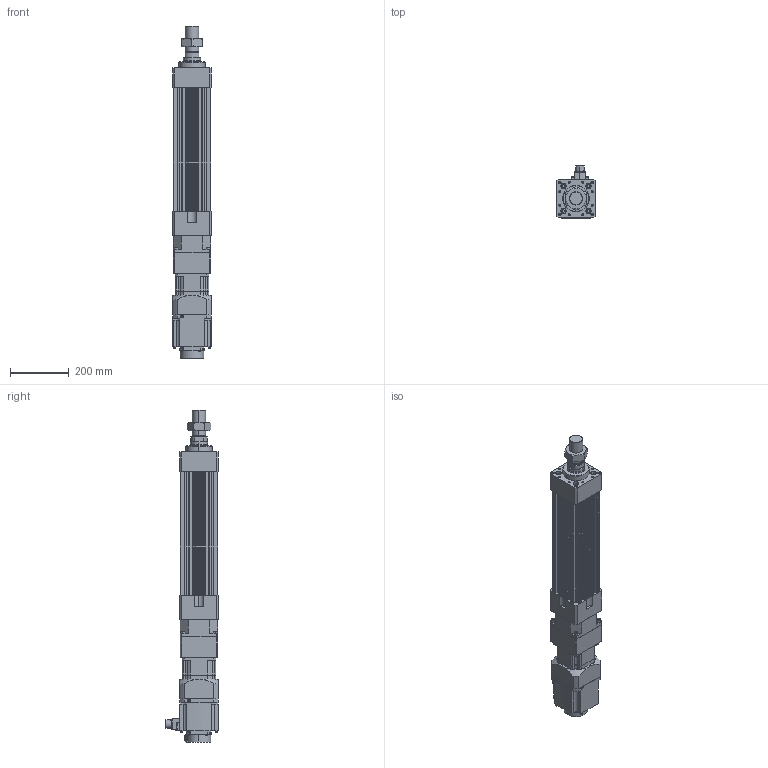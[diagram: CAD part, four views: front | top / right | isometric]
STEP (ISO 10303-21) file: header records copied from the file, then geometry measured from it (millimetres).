
FILE_DESCRIPTION (( 'STEP AP203' ), '1' );
FILE_NAME ('HES130NS(FS)(HS)-S200-W015G00-M.STEP', '2023-01-30T07:55:04', ( 'tms' ), ( '' ), 'SwSTEP 2.0', 'SolidWorks 2013', '' );
FILE_SCHEMA (( 'CONFIG_CONTROL_DESIGN' ));
Length unit declared in the file: millimetre
Products named in the file (8): HES130 ROD M ST200; AB115-003[HG-SR152]; M45X1.5P; HES130NS(FS)(HS)-S200-W015G00-M; AB1151; HG-SR152; HES130-S200-G120; P0401400706
Assembly tree (7 placements, depth 3):
  HES130NS(FS)(HS)-S200-W015G00-M
    HES130-S200-G120
    HES130 ROD M ST200
    M45X1.5P
    AB115-003[HG-SR152]
      AB1151
      P0401400706
    HG-SR152
Bounding box: 130 x 177.49 x 1129.5 mm (x, y, z)
Volume: 8751577.9 mm3; surface area: 1084485 mm2
Topology: 4 solids, 15 shells, 1220 faces, 3076 edges, 1983 vertices
Faces by surface type: cylinder 553, plane 551, cone 104, bspline 8, torus 4
Entity records: 38254 total; most frequent: CARTESIAN_POINT 7242, DIRECTION 6653, ORIENTED_EDGE 6060, EDGE_CURVE 3040, AXIS2_PLACEMENT_3D 2462, VERTEX_POINT 1983, VECTOR 1729, LINE 1729
